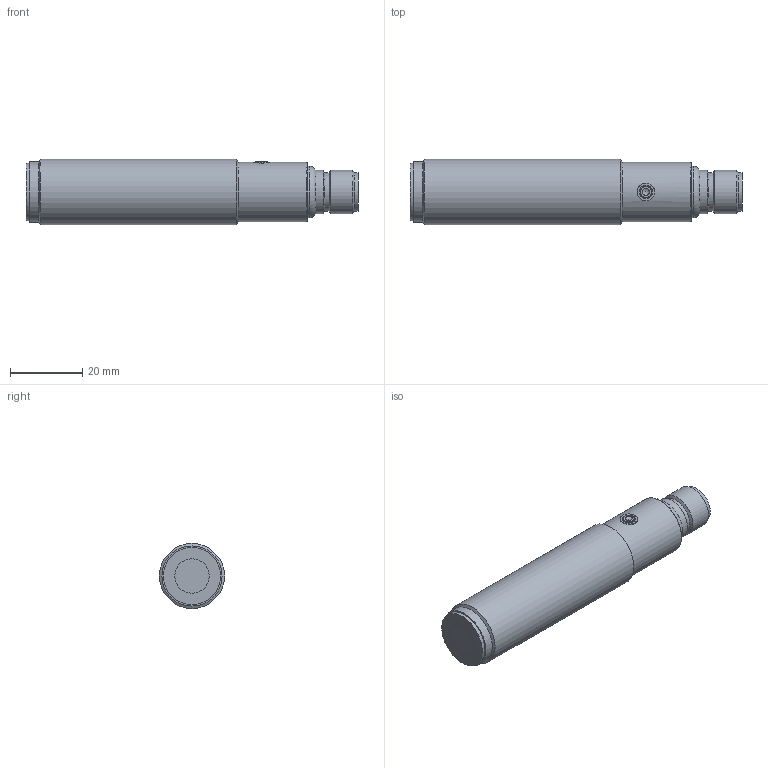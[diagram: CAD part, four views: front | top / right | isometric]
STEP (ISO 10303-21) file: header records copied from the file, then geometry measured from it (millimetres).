
FILE_DESCRIPTION(/* description */ ('Unknown'),/* implementation_level */ '2;1');
FILE_NAME(/* name */ 'UK1_0E_ELO',/* time_stamp */ '2017-11-15T13:23:04+01:00',/* author */ ('Unknown'),/* organization */ ('Unknown'),/* preprocessor_version */ 'ST-DEVELOPER v16.7',/* originating_system */ 'DEX',/* authorisation */ $);
FILE_SCHEMA (('AUTOMOTIVE_DESIGN {1 0 10303 214 3 1 1}'));
Length unit declared in the file: millimetre
Products named in the file (1): Parte1
Bounding box: 91.6 x 18 x 18 mm (x, y, z)
Volume: 19889.8 mm3; surface area: 5601.1 mm2
Topology: 1 solids, 1 shells, 51 faces, 111 edges, 65 vertices
Faces by surface type: cylinder 20, plane 12, cone 10, sphere 5, torus 4
Full cylindrical faces by diameter (mm): 1 x4, 3.3 x1, 3.6 x1, 8.3 x1, 9.5 x1, 10.5 x2, 12 x2, 14.2 x1, 15.8 x1, 16.4 x1, 16.6 x1, 18 x1
Entity records: 1465 total; most frequent: DIRECTION 208, CARTESIAN_POINT 183, ORIENTED_EDGE 120, AXIS2_PLACEMENT_3D 100, EDGE_LOOP 93, FACE_BOUND 93, EDGE_CURVE 60, VERTEX_POINT 53
